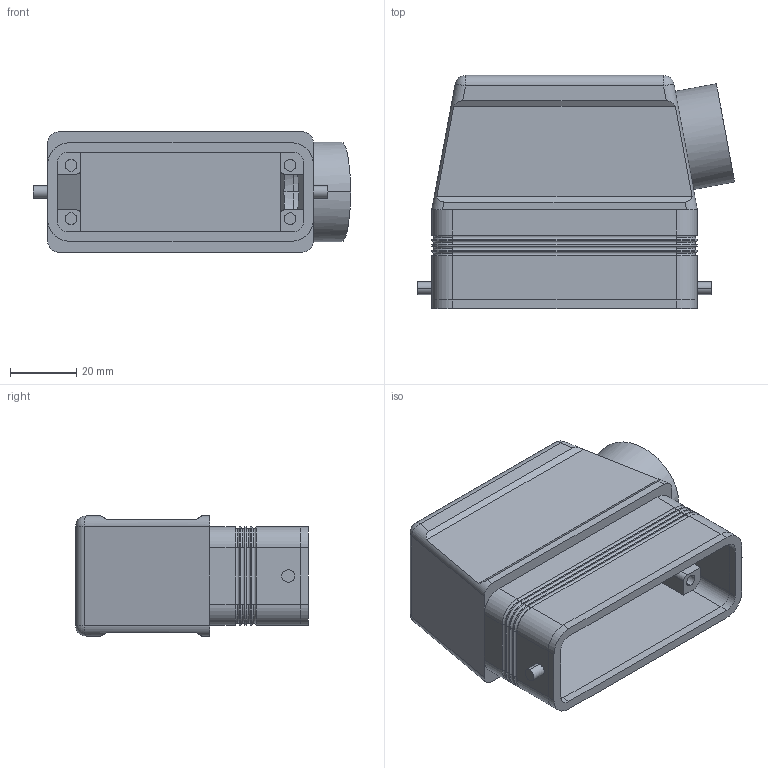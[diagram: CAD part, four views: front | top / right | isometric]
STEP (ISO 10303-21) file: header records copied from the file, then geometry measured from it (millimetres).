
FILE_DESCRIPTION (( 'STEP AP214' ), '1' );
FILE_NAME ('CZAO-25L21.STEP', '2007-08-03T20:40:58', ( 'Bruce Mistarz' ), ( 'Mencom Corp' ), 'SwSTEP 2.0', 'SolidWorks 2007', '' );
FILE_SCHEMA (( 'AUTOMOTIVE_DESIGN' ));
Length unit declared in the file: inch
Products named in the file (1): CZAO-25L21
Bounding box: 95.43 x 70.1 x 36.2 mm (x, y, z)
Volume: 62141.9 mm3; surface area: 35838.2 mm2
Topology: 2 solids, 2 shells, 201 faces, 482 edges, 288 vertices
Faces by surface type: cylinder 84, plane 81, torus 32, sphere 4
Entity records: 6084 total; most frequent: CARTESIAN_POINT 1076, DIRECTION 1066, ORIENTED_EDGE 956, EDGE_CURVE 478, AXIS2_PLACEMENT_3D 410, VERTEX_POINT 288, VECTOR 246, LINE 246
